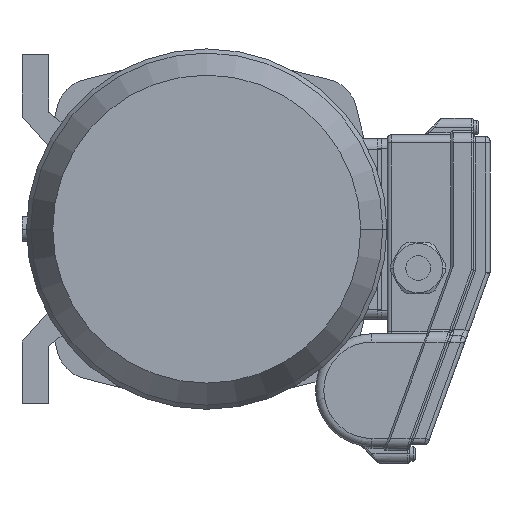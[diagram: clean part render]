
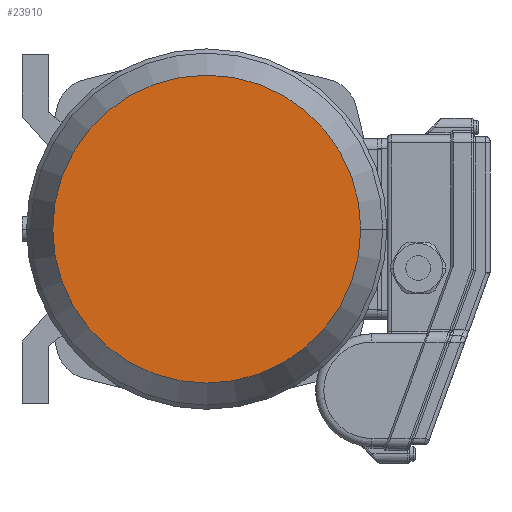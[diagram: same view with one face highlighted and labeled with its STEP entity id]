
A CAD part, front view. The second image highlights one B-rep face of the part: STEP entity #23910.
In plain terms, the highlighted planar face has unit normal (0, -1, 0) as drawn and (1, 0, 0) by its records, which use the part's own axes.
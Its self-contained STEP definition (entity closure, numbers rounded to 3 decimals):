
#17421=CARTESIAN_POINT('',(242.,0.,0.));
#17422=DIRECTION('',(-1.,0.,0.));
#17423=DIRECTION('',(0.,1.,0.));
#17424=AXIS2_PLACEMENT_3D('',#17421,#17422,#17423);
#17429=CARTESIAN_POINT('',(242.,0.,0.));
#17430=DIRECTION('',(1.,0.,0.));
#17431=DIRECTION('',(0.,1.,0.));
#17432=AXIS2_PLACEMENT_3D('',#17429,#17430,#17431);
#18123=CARTESIAN_POINT('',(242.,75.025,0.));
#18125=VERTEX_POINT('',#18123);
#18133=CARTESIAN_POINT('',(242.,-75.025,0.));
#18135=VERTEX_POINT('',#18133);
#23901=CARTESIAN_POINT('',(242.,0.,0.));
#23902=DIRECTION('',(1.,0.,0.));
#23903=DIRECTION('',(0.,-1.,0.));
#23904=AXIS2_PLACEMENT_3D('',#23901,#23902,#23903);
#23905=PLANE('',#23904);
#23906=ORIENTED_EDGE('',*,*,#23883,.T.);
#23907=ORIENTED_EDGE('',*,*,#23894,.F.);
#23908=EDGE_LOOP('',(#23906,#23907));
#23909=FACE_OUTER_BOUND('',#23908,.F.);
#17425=CIRCLE('',#17424,75.025);
#17433=CIRCLE('',#17432,75.025);
#23883=EDGE_CURVE('',#18125,#18135,#17425,.T.);
#23894=EDGE_CURVE('',#18125,#18135,#17433,.T.);
#23910=ADVANCED_FACE('',(#23909),#23905,.T.);
